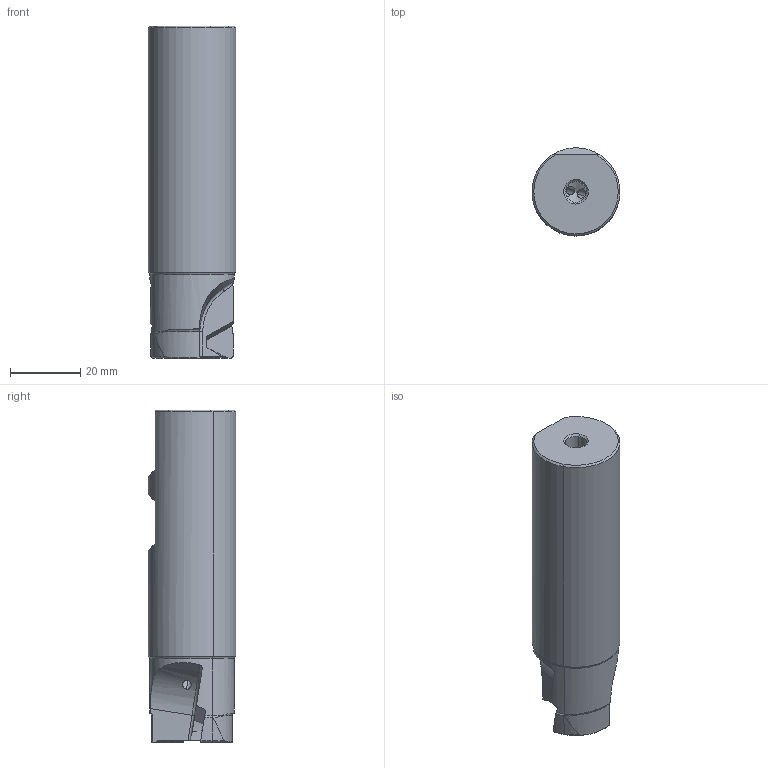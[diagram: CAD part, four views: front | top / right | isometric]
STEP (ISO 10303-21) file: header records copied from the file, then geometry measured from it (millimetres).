
FILE_DESCRIPTION(('CATIA V5 STEP'),'2;1');
FILE_NAME('I:\isr\design\admin8\users\yousef_k\3106413-D.stp','2012-11-15T09:34:47+00:00',('none'),('none'),'CATIA Version 5 Release 21 SP 3 (IN-10)','CATIA V5 STEP AP214','none');
FILE_SCHEMA(('AUTOMOTIVE_DESIGN { 1 0 10303 214 1 1 1 1 }'));
Length unit declared in the file: millimetre
Products named in the file (1): 61069651_0  HM390 ETP D25-2-W25-10
Bounding box: 25 x 24.99 x 94.4 mm (x, y, z)
Volume: 38830.6 mm3; surface area: 9712.7 mm2
Topology: 1 solids, 1 shells, 78 faces, 207 edges, 129 vertices
Faces by surface type: plane 23, torus 22, cylinder 18, cone 15
Entity records: 2699 total; most frequent: CARTESIAN_POINT 970, ORIENTED_EDGE 410, DIRECTION 256, EDGE_CURVE 205, VERTEX_POINT 129, AXIS2_PLACEMENT_3D 126, EDGE_LOOP 82, ADVANCED_FACE 78
